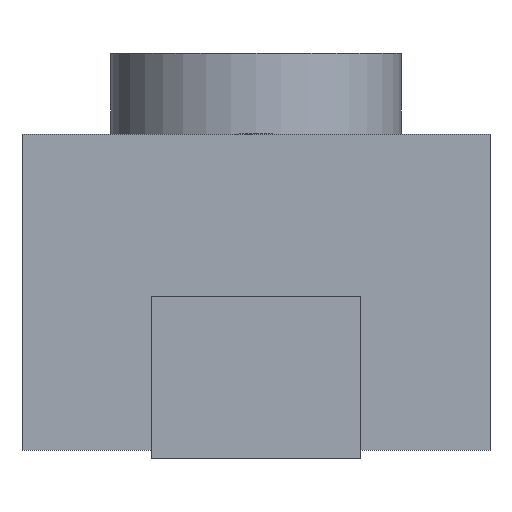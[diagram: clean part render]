
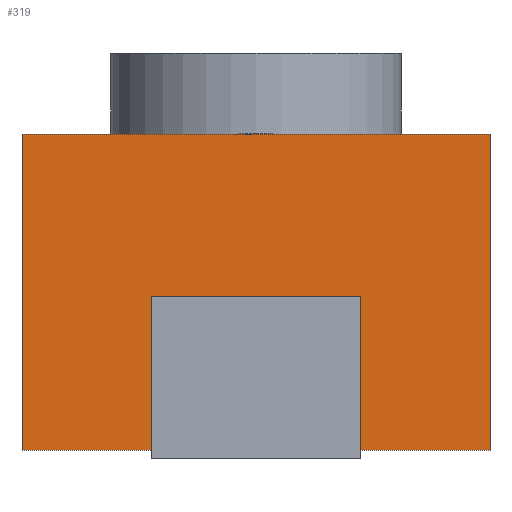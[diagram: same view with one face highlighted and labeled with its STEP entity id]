
A CAD part, left-side view. The second image highlights one B-rep face of the part: STEP entity #319.
In plain terms, the highlighted planar face has unit normal (-1, 0, 0).
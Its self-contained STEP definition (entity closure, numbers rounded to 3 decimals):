
#224 = VERTEX_POINT('',#225);
#225 = CARTESIAN_POINT('',(-1.994,-1.448,0.051));
#240 = VERTEX_POINT('',#241);
#241 = CARTESIAN_POINT('',(-1.994,-1.448,2.007));
#247 = EDGE_CURVE('',#224,#240,#248,.T.);
#248 = LINE('',#249,#250);
#249 = CARTESIAN_POINT('',(-1.994,-1.448,0.051));
#250 = VECTOR('',#251,1.);
#251 = DIRECTION('',(0.,0.,1.));
#293 = VERTEX_POINT('',#294);
#294 = CARTESIAN_POINT('',(-1.994,1.448,0.051));
#300 = EDGE_CURVE('',#301,#293,#303,.T.);
#301 = VERTEX_POINT('',#302);
#302 = CARTESIAN_POINT('',(-1.994,1.448,2.007));
#303 = LINE('',#304,#305);
#304 = CARTESIAN_POINT('',(-1.994,1.448,2.007));
#305 = VECTOR('',#306,1.);
#306 = DIRECTION('',(0.,0.,-1.));
#319 = ADVANCED_FACE('',(#320),#336,.T.);
#320 = FACE_BOUND('',#321,.T.);
#321 = EDGE_LOOP('',(#322,#328,#329,#335));
#322 = ORIENTED_EDGE('',*,*,#323,.F.);
#323 = EDGE_CURVE('',#224,#293,#324,.T.);
#324 = LINE('',#325,#326);
#325 = CARTESIAN_POINT('',(-1.994,-1.448,0.051));
#326 = VECTOR('',#327,1.);
#327 = DIRECTION('',(0.,1.,0.));
#328 = ORIENTED_EDGE('',*,*,#247,.T.);
#329 = ORIENTED_EDGE('',*,*,#330,.F.);
#330 = EDGE_CURVE('',#301,#240,#331,.T.);
#331 = LINE('',#332,#333);
#332 = CARTESIAN_POINT('',(-1.994,1.448,2.007));
#333 = VECTOR('',#334,1.);
#334 = DIRECTION('',(0.,-1.,0.));
#335 = ORIENTED_EDGE('',*,*,#300,.T.);
#336 = PLANE('',#337);
#337 = AXIS2_PLACEMENT_3D('',#338,#339,#340);
#338 = CARTESIAN_POINT('',(-1.994,1.448,0.051));
#339 = DIRECTION('',(-1.,0.,0.));
#340 = DIRECTION('',(0.,0.,1.));
